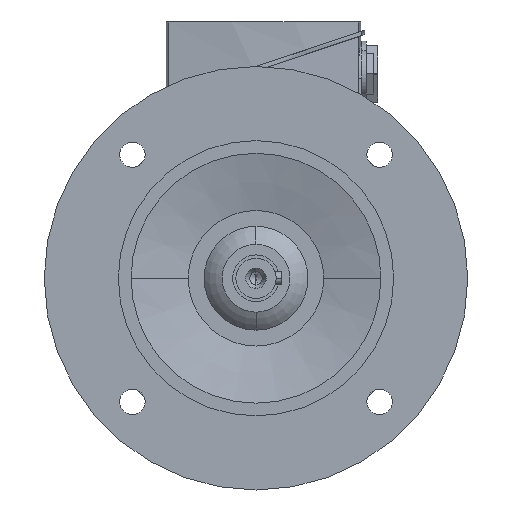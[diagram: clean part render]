
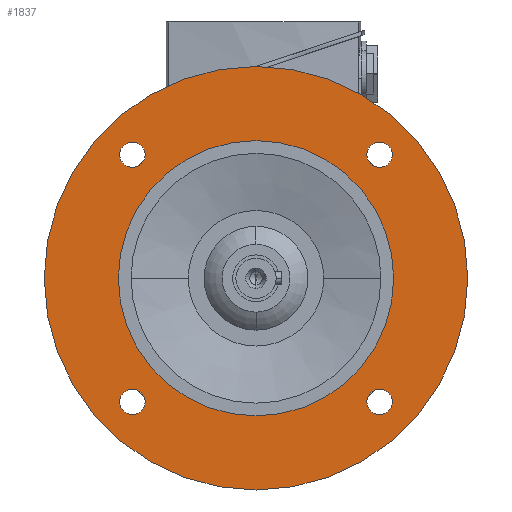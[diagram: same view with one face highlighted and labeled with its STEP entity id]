
A CAD part, left-side view. The second image highlights one B-rep face of the part: STEP entity #1837.
In plain terms, the highlighted planar face has unit normal (-1, 0, 0).
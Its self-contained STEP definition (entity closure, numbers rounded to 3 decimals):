
#1837=ADVANCED_FACE('',(#3705,#3706,#3707,#3708,#3709,#3710),#3711,.T.);
#3705=FACE_BOUND('',#5571,.T.);
#3706=FACE_BOUND('',#5572,.T.);
#3707=FACE_BOUND('',#5573,.T.);
#3708=FACE_BOUND('',#5574,.T.);
#3709=FACE_OUTER_BOUND('',#5575,.T.);
#3710=FACE_BOUND('',#5576,.T.);
#3711=PLANE('',#5577);
#5571=EDGE_LOOP('',(#11359,#11360));
#5572=EDGE_LOOP('',(#11361,#11362));
#5573=EDGE_LOOP('',(#11363,#11364));
#5574=EDGE_LOOP('',(#11365,#11366));
#5575=EDGE_LOOP('',(#11367,#11368));
#5576=EDGE_LOOP('',(#11369,#11370));
#5577=AXIS2_PLACEMENT_3D('',#11371,#11372,#11373);
#11359=ORIENTED_EDGE('',*,*,#13625,.T.);
#11360=ORIENTED_EDGE('',*,*,#11443,.T.);
#11361=ORIENTED_EDGE('',*,*,#13628,.T.);
#11362=ORIENTED_EDGE('',*,*,#11438,.T.);
#11363=ORIENTED_EDGE('',*,*,#13631,.T.);
#11364=ORIENTED_EDGE('',*,*,#11433,.T.);
#11365=ORIENTED_EDGE('',*,*,#13634,.T.);
#11366=ORIENTED_EDGE('',*,*,#11428,.T.);
#11367=ORIENTED_EDGE('',*,*,#11397,.F.);
#11368=ORIENTED_EDGE('',*,*,#13690,.F.);
#11369=ORIENTED_EDGE('',*,*,#11404,.T.);
#11370=ORIENTED_EDGE('',*,*,#13688,.T.);
#11371=CARTESIAN_POINT('',(-27.0,82.5,0.0));
#11372=DIRECTION('',(-1.0,0.0,0.0));
#11373=DIRECTION('',(0.0,-1.0,0.0));
#11397=EDGE_CURVE('',#13695,#13698,#13699,.T.);
#11404=EDGE_CURVE('',#13705,#13709,#13711,.T.);
#11428=EDGE_CURVE('',#13753,#13750,#13754,.T.);
#11433=EDGE_CURVE('',#13762,#13759,#13763,.T.);
#11438=EDGE_CURVE('',#13771,#13768,#13772,.T.);
#11443=EDGE_CURVE('',#13780,#13777,#13781,.T.);
#13625=EDGE_CURVE('',#13777,#13780,#17031,.T.);
#13628=EDGE_CURVE('',#13768,#13771,#17034,.T.);
#13631=EDGE_CURVE('',#13759,#13762,#17037,.T.);
#13634=EDGE_CURVE('',#13750,#13753,#17040,.T.);
#13688=EDGE_CURVE('',#13709,#13705,#17107,.T.);
#13690=EDGE_CURVE('',#13698,#13695,#17109,.T.);
#13695=VERTEX_POINT('',#17114);
#13698=VERTEX_POINT('',#17118);
#13699=CIRCLE('',#17119,100.0);
#13705=VERTEX_POINT('',#17126);
#13709=VERTEX_POINT('',#17131);
#13711=CIRCLE('',#17134,65.0);
#13750=VERTEX_POINT('',#17182);
#13753=VERTEX_POINT('',#17186);
#13754=CIRCLE('',#17187,6.0);
#13759=VERTEX_POINT('',#17193);
#13762=VERTEX_POINT('',#17197);
#13763=CIRCLE('',#17198,6.0);
#13768=VERTEX_POINT('',#17204);
#13771=VERTEX_POINT('',#17208);
#13772=CIRCLE('',#17209,6.0);
#13777=VERTEX_POINT('',#17215);
#13780=VERTEX_POINT('',#17219);
#13781=CIRCLE('',#17220,6.0);
#17031=CIRCLE('',#23677,6.0);
#17034=CIRCLE('',#23680,6.0);
#17037=CIRCLE('',#23683,6.0);
#17040=CIRCLE('',#23686,6.0);
#17107=CIRCLE('',#23796,65.0);
#17109=CIRCLE('',#23798,100.0);
#17114=CARTESIAN_POINT('',(-27.0,100.0,0.0));
#17118=CARTESIAN_POINT('',(-27.0,-100.0,0.));
#17119=AXIS2_PLACEMENT_3D('',#23803,#23804,#23805);
#17126=CARTESIAN_POINT('',(-27.0,65.0,0.0));
#17131=CARTESIAN_POINT('',(-27.0,-65.0,0.));
#17134=AXIS2_PLACEMENT_3D('',#23815,#23816,#23817);
#17182=CARTESIAN_POINT('',(-27.0,-62.579,62.579));
#17186=CARTESIAN_POINT('',(-27.0,-54.094,54.094));
#17187=AXIS2_PLACEMENT_3D('',#23859,#23860,#23861);
#17193=CARTESIAN_POINT('',(-27.0,62.579,62.579));
#17197=CARTESIAN_POINT('',(-27.0,54.094,54.094));
#17198=AXIS2_PLACEMENT_3D('',#23867,#23868,#23869);
#17204=CARTESIAN_POINT('',(-27.0,62.579,-62.579));
#17208=CARTESIAN_POINT('',(-27.0,54.094,-54.094));
#17209=AXIS2_PLACEMENT_3D('',#23875,#23876,#23877);
#17215=CARTESIAN_POINT('',(-27.0,-62.579,-62.579));
#17219=CARTESIAN_POINT('',(-27.0,-54.094,-54.094));
#17220=AXIS2_PLACEMENT_3D('',#23883,#23884,#23885);
#23677=AXIS2_PLACEMENT_3D('',#26225,#26226,#26227);
#23680=AXIS2_PLACEMENT_3D('',#26231,#26232,#26233);
#23683=AXIS2_PLACEMENT_3D('',#26237,#26238,#26239);
#23686=AXIS2_PLACEMENT_3D('',#26243,#26244,#26245);
#23796=AXIS2_PLACEMENT_3D('',#26294,#26295,#26296);
#23798=AXIS2_PLACEMENT_3D('',#26297,#26298,#26299);
#23803=CARTESIAN_POINT('',(-27.0,0.0,0.0));
#23804=DIRECTION('',(1.0,0.0,0.0));
#23805=DIRECTION('',(0.0,1.0,0.0));
#23815=CARTESIAN_POINT('',(-27.0,0.0,0.0));
#23816=DIRECTION('',(1.0,0.0,0.0));
#23817=DIRECTION('',(0.0,1.0,0.0));
#23859=CARTESIAN_POINT('',(-27.0,-58.336,58.336));
#23860=DIRECTION('',(1.0,0.0,-0.0));
#23861=DIRECTION('',(0.0,-0.707,0.707));
#23867=CARTESIAN_POINT('',(-27.0,58.336,58.336));
#23868=DIRECTION('',(1.0,0.0,-0.0));
#23869=DIRECTION('',(0.0,0.707,0.707));
#23875=CARTESIAN_POINT('',(-27.0,58.336,-58.336));
#23876=DIRECTION('',(1.0,-0.0,0.0));
#23877=DIRECTION('',(0.0,0.707,-0.707));
#23883=CARTESIAN_POINT('',(-27.0,-58.336,-58.336));
#23884=DIRECTION('',(1.0,0.0,0.0));
#23885=DIRECTION('',(0.0,-0.707,-0.707));
#26225=CARTESIAN_POINT('',(-27.0,-58.336,-58.336));
#26226=DIRECTION('',(1.0,0.0,0.0));
#26227=DIRECTION('',(0.0,-0.707,-0.707));
#26231=CARTESIAN_POINT('',(-27.0,58.336,-58.336));
#26232=DIRECTION('',(1.0,-0.0,0.0));
#26233=DIRECTION('',(0.0,0.707,-0.707));
#26237=CARTESIAN_POINT('',(-27.0,58.336,58.336));
#26238=DIRECTION('',(1.0,0.0,-0.0));
#26239=DIRECTION('',(0.0,0.707,0.707));
#26243=CARTESIAN_POINT('',(-27.0,-58.336,58.336));
#26244=DIRECTION('',(1.0,0.0,-0.0));
#26245=DIRECTION('',(0.0,-0.707,0.707));
#26294=CARTESIAN_POINT('',(-27.0,0.0,0.0));
#26295=DIRECTION('',(1.0,0.0,0.0));
#26296=DIRECTION('',(0.0,1.0,0.0));
#26297=CARTESIAN_POINT('',(-27.0,0.0,0.0));
#26298=DIRECTION('',(1.0,0.0,0.0));
#26299=DIRECTION('',(0.0,1.0,0.0));
